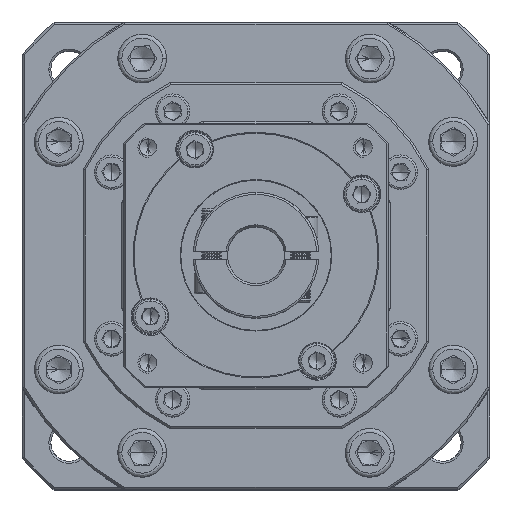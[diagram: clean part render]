
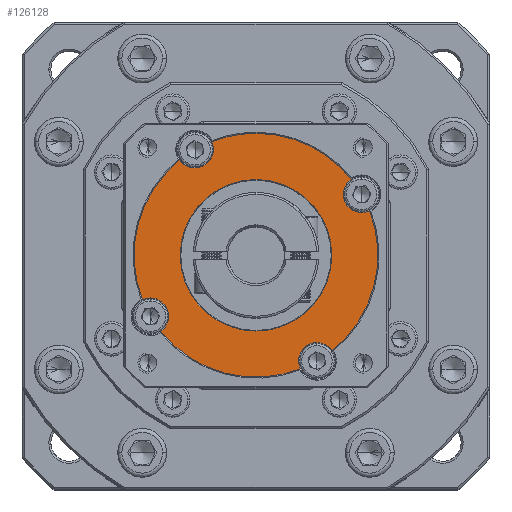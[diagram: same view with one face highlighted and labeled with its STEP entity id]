
A CAD part, top view. The second image highlights one B-rep face of the part: STEP entity #126128.
In plain terms, the highlighted planar face has unit normal (0, 0, 1).
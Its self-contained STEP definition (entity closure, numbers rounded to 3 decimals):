
#581 = ORIENTED_EDGE ( 'NONE', *, *, #77133, .T. ) ;
#601 = ORIENTED_EDGE ( 'NONE', *, *, #132479, .T. ) ;
#1552 = CARTESIAN_POINT ( 'NONE',  ( 82.936, 91.598, -8.557 ) ) ;
#6706 = EDGE_CURVE ( 'NONE', #26056, #55165, #132839, .T. ) ;
#9508 = CARTESIAN_POINT ( 'NONE',  ( 93.917, 128.079, -8.557 ) ) ;
#12837 = EDGE_CURVE ( 'NONE', #55165, #95912, #81189, .T. ) ;
#13440 = DIRECTION ( 'NONE',  ( 0., 1., 0. ) ) ;
#13827 = CARTESIAN_POINT ( 'NONE',  ( 52.936, 139.059, -8.557 ) ) ;
#14485 = CIRCLE ( 'NONE', #132882, 4.5 ) ;
#14868 = CARTESIAN_POINT ( 'NONE',  ( 67.936, 113.079, -8.557 ) ) ;
#14979 = CARTESIAN_POINT ( 'NONE',  ( 67.936, 113.079, -8.557 ) ) ;
#15885 = CARTESIAN_POINT ( 'NONE',  ( 67.936, 113.079, -8.557 ) ) ;
#16029 = ORIENTED_EDGE ( 'NONE', *, *, #88457, .T. ) ;
#16856 = CIRCLE ( 'NONE', #29015, 4.5 ) ;
#18648 = VERTEX_POINT ( 'NONE', #128853 ) ;
#19337 = AXIS2_PLACEMENT_3D ( 'NONE', #9508, #92474, #62154 ) ;
#20737 = ORIENTED_EDGE ( 'NONE', *, *, #69901, .F. ) ;
#21478 = DIRECTION ( 'NONE',  ( 0., 1., 0. ) ) ;
#23734 = DIRECTION ( 'NONE',  ( 0., 1., 0. ) ) ;
#25160 = VERTEX_POINT ( 'NONE', #97864 ) ;
#25674 = DIRECTION ( 'NONE',  ( 0., 1., 0. ) ) ;
#26056 = VERTEX_POINT ( 'NONE', #94303 ) ;
#26915 = DIRECTION ( 'NONE',  ( 0., 0., 1. ) ) ;
#27781 = AXIS2_PLACEMENT_3D ( 'NONE', #13827, #34220, #65999 ) ;
#27928 = CARTESIAN_POINT ( 'NONE',  ( 67.936, 143.079, -8.557 ) ) ;
#29015 = AXIS2_PLACEMENT_3D ( 'NONE', #77013, #45301, #55532 ) ;
#34220 = DIRECTION ( 'NONE',  ( 0., 0., 1. ) ) ;
#35344 = AXIS2_PLACEMENT_3D ( 'NONE', #105772, #40936, #74977 ) ;
#35882 = DIRECTION ( 'NONE',  ( 0., 0., -1. ) ) ;
#35925 = CARTESIAN_POINT ( 'NONE',  ( 67.936, 94.434, -8.557 ) ) ;
#38990 = DIRECTION ( 'NONE',  ( 0., 0., 1. ) ) ;
#40936 = DIRECTION ( 'NONE',  ( 0., 0., 1. ) ) ;
#41575 = EDGE_LOOP ( 'NONE', ( #581, #44824 ) ) ;
#44155 = DIRECTION ( 'NONE',  ( 0., 1., 0. ) ) ;
#44824 = ORIENTED_EDGE ( 'NONE', *, *, #77858, .T. ) ;
#44853 = CIRCLE ( 'NONE', #85575, 4.5 ) ;
#45301 = DIRECTION ( 'NONE',  ( 0., 0., 1. ) ) ;
#46069 = CARTESIAN_POINT ( 'NONE',  ( 52.936, 139.059, -8.557 ) ) ;
#46952 = DIRECTION ( 'NONE',  ( 0., 1., 0. ) ) ;
#47386 = ORIENTED_EDGE ( 'NONE', *, *, #12837, .T. ) ;
#47444 = EDGE_LOOP ( 'NONE', ( #50223, #16029, #96672, #111732, #136703, #47386, #71758, #20737, #601, #71836, #100673, #90334, #94846 ) ) ;
#48088 = AXIS2_PLACEMENT_3D ( 'NONE', #14868, #26915, #46952 ) ;
#48187 = DIRECTION ( 'NONE',  ( 0., 1., 0. ) ) ;
#48710 = DIRECTION ( 'NONE',  ( 0., 1., 0. ) ) ;
#48988 = AXIS2_PLACEMENT_3D ( 'NONE', #101841, #100965, #48187 ) ;
#49303 = EDGE_CURVE ( 'NONE', #67416, #25160, #127907, .T. ) ;
#50223 = ORIENTED_EDGE ( 'NONE', *, *, #52442, .F. ) ;
#50371 = CARTESIAN_POINT ( 'NONE',  ( 41.955, 98.079, -8.557 ) ) ;
#50533 = EDGE_CURVE ( 'NONE', #122990, #91945, #117265, .T. ) ;
#51282 = CARTESIAN_POINT ( 'NONE',  ( 86.653, 89.634, -8.557 ) ) ;
#51819 = VERTEX_POINT ( 'NONE', #35925 ) ;
#52016 = AXIS2_PLACEMENT_3D ( 'NONE', #14979, #35882, #57807 ) ;
#52233 = CIRCLE ( 'NONE', #19337, 4.5 ) ;
#52442 = EDGE_CURVE ( 'NONE', #73156, #101138, #44853, .T. ) ;
#53028 = VERTEX_POINT ( 'NONE', #61238 ) ;
#55165 = VERTEX_POINT ( 'NONE', #27928 ) ;
#55532 = DIRECTION ( 'NONE',  ( 0., 1., 0. ) ) ;
#57173 = FACE_BOUND ( 'NONE', #41575, .T. ) ;
#57807 = DIRECTION ( 'NONE',  ( 0., 1., 0. ) ) ;
#59661 = CIRCLE ( 'NONE', #48088, 30. ) ;
#61125 = DIRECTION ( 'NONE',  ( 0., 1., 0. ) ) ;
#61238 = CARTESIAN_POINT ( 'NONE',  ( 52.936, 134.559, -8.557 ) ) ;
#62154 = DIRECTION ( 'NONE',  ( 0., 1., 0. ) ) ;
#63282 = EDGE_CURVE ( 'NONE', #122990, #18648, #14485, .T. ) ;
#65479 = AXIS2_PLACEMENT_3D ( 'NONE', #15885, #110999, #25674 ) ;
#65999 = DIRECTION ( 'NONE',  ( 0., 1., 0. ) ) ;
#66460 = CARTESIAN_POINT ( 'NONE',  ( 40.004, 102.133, -8.557 ) ) ;
#67416 = VERTEX_POINT ( 'NONE', #72249 ) ;
#69901 = EDGE_CURVE ( 'NONE', #90366, #53028, #96396, .T. ) ;
#71758 = ORIENTED_EDGE ( 'NONE', *, *, #132284, .F. ) ;
#71836 = ORIENTED_EDGE ( 'NONE', *, *, #77574, .F. ) ;
#72204 = VERTEX_POINT ( 'NONE', #94786 ) ;
#72249 = CARTESIAN_POINT ( 'NONE',  ( 93.917, 123.579, -8.557 ) ) ;
#73156 = VERTEX_POINT ( 'NONE', #51282 ) ;
#73668 = CARTESIAN_POINT ( 'NONE',  ( 67.936, 113.079, -8.557 ) ) ;
#74877 = AXIS2_PLACEMENT_3D ( 'NONE', #46069, #120635, #23734 ) ;
#74977 = DIRECTION ( 'NONE',  ( 0., 1., 0. ) ) ;
#75055 = CIRCLE ( 'NONE', #134926, 30. ) ;
#75113 = CARTESIAN_POINT ( 'NONE',  ( 44.491, 94.361, -8.557 ) ) ;
#76323 = DIRECTION ( 'NONE',  ( 0., 0., 1. ) ) ;
#77013 = CARTESIAN_POINT ( 'NONE',  ( 41.955, 98.079, -8.557 ) ) ;
#77133 = EDGE_CURVE ( 'NONE', #72204, #51819, #113788, .T. ) ;
#77259 = CARTESIAN_POINT ( 'NONE',  ( 67.936, 113.079, -8.557 ) ) ;
#77574 = EDGE_CURVE ( 'NONE', #18648, #103701, #16856, .T. ) ;
#77858 = EDGE_CURVE ( 'NONE', #51819, #72204, #81651, .T. ) ;
#78127 = CIRCLE ( 'NONE', #74877, 4.5 ) ;
#79453 = DIRECTION ( 'NONE',  ( 0., 0., 1. ) ) ;
#81189 = CIRCLE ( 'NONE', #65479, 30. ) ;
#81651 = CIRCLE ( 'NONE', #113725, 18.644 ) ;
#83785 = FACE_OUTER_BOUND ( 'NONE', #47444, .T. ) ;
#84370 = DIRECTION ( 'NONE',  ( 0., 0., -1. ) ) ;
#85575 = AXIS2_PLACEMENT_3D ( 'NONE', #102929, #38990, #113632 ) ;
#86613 = DIRECTION ( 'NONE',  ( 0., 0., 1. ) ) ;
#88457 = EDGE_CURVE ( 'NONE', #73156, #25160, #75055, .T. ) ;
#90334 = ORIENTED_EDGE ( 'NONE', *, *, #50533, .T. ) ;
#90366 = VERTEX_POINT ( 'NONE', #118258 ) ;
#91945 = VERTEX_POINT ( 'NONE', #123825 ) ;
#92474 = DIRECTION ( 'NONE',  ( 0., 0., 1. ) ) ;
#92569 = PLANE ( 'NONE',  #112507 ) ;
#93018 = CARTESIAN_POINT ( 'NONE',  ( 67.936, 113.079, -8.557 ) ) ;
#94303 = CARTESIAN_POINT ( 'NONE',  ( 91.381, 131.796, -8.557 ) ) ;
#94786 = CARTESIAN_POINT ( 'NONE',  ( 67.936, 131.723, -8.557 ) ) ;
#94846 = ORIENTED_EDGE ( 'NONE', *, *, #136097, .F. ) ;
#95912 = VERTEX_POINT ( 'NONE', #122508 ) ;
#96396 = CIRCLE ( 'NONE', #27781, 4.5 ) ;
#96672 = ORIENTED_EDGE ( 'NONE', *, *, #49303, .F. ) ;
#97864 = CARTESIAN_POINT ( 'NONE',  ( 95.868, 124.024, -8.557 ) ) ;
#100673 = ORIENTED_EDGE ( 'NONE', *, *, #63282, .F. ) ;
#100965 = DIRECTION ( 'NONE',  ( 0., 0., 1. ) ) ;
#101138 = VERTEX_POINT ( 'NONE', #1552 ) ;
#101841 = CARTESIAN_POINT ( 'NONE',  ( 82.936, 87.098, -8.557 ) ) ;
#102213 = DIRECTION ( 'NONE',  ( 0., 0., 1. ) ) ;
#102929 = CARTESIAN_POINT ( 'NONE',  ( 82.936, 87.098, -8.557 ) ) ;
#103701 = VERTEX_POINT ( 'NONE', #66460 ) ;
#105772 = CARTESIAN_POINT ( 'NONE',  ( 67.936, 113.079, -8.557 ) ) ;
#108553 = EDGE_CURVE ( 'NONE', #26056, #67416, #52233, .T. ) ;
#110259 = AXIS2_PLACEMENT_3D ( 'NONE', #77259, #86613, #13440 ) ;
#110999 = DIRECTION ( 'NONE',  ( 0., 0., 1. ) ) ;
#111732 = ORIENTED_EDGE ( 'NONE', *, *, #108553, .F. ) ;
#112507 = AXIS2_PLACEMENT_3D ( 'NONE', #93018, #113531, #48710 ) ;
#113531 = DIRECTION ( 'NONE',  ( 0., 0., 1. ) ) ;
#113632 = DIRECTION ( 'NONE',  ( 0., 1., 0. ) ) ;
#113725 = AXIS2_PLACEMENT_3D ( 'NONE', #73668, #84370, #21478 ) ;
#113788 = CIRCLE ( 'NONE', #52016, 18.644 ) ;
#117265 = CIRCLE ( 'NONE', #35344, 30. ) ;
#118258 = CARTESIAN_POINT ( 'NONE',  ( 49.218, 136.523, -8.557 ) ) ;
#120635 = DIRECTION ( 'NONE',  ( 0., 0., 1. ) ) ;
#121875 = CIRCLE ( 'NONE', #48988, 4.5 ) ;
#122286 = CARTESIAN_POINT ( 'NONE',  ( 67.936, 113.079, -8.557 ) ) ;
#122508 = CARTESIAN_POINT ( 'NONE',  ( 56.991, 141.011, -8.557 ) ) ;
#122990 = VERTEX_POINT ( 'NONE', #75113 ) ;
#123825 = CARTESIAN_POINT ( 'NONE',  ( 78.881, 85.146, -8.557 ) ) ;
#124333 = AXIS2_PLACEMENT_3D ( 'NONE', #130790, #76323, #44155 ) ;
#126128 = ADVANCED_FACE ( 'NONE', ( #57173, #83785 ), #92569, .T. ) ;
#127907 = CIRCLE ( 'NONE', #124333, 4.5 ) ;
#128853 = CARTESIAN_POINT ( 'NONE',  ( 41.955, 102.579, -8.557 ) ) ;
#130790 = CARTESIAN_POINT ( 'NONE',  ( 93.917, 128.079, -8.557 ) ) ;
#132284 = EDGE_CURVE ( 'NONE', #53028, #95912, #78127, .T. ) ;
#132479 = EDGE_CURVE ( 'NONE', #90366, #103701, #59661, .T. ) ;
#132523 = DIRECTION ( 'NONE',  ( 0., 1., 0. ) ) ;
#132839 = CIRCLE ( 'NONE', #110259, 30. ) ;
#132882 = AXIS2_PLACEMENT_3D ( 'NONE', #50371, #102213, #61125 ) ;
#134926 = AXIS2_PLACEMENT_3D ( 'NONE', #122286, #79453, #132523 ) ;
#136097 = EDGE_CURVE ( 'NONE', #101138, #91945, #121875, .T. ) ;
#136703 = ORIENTED_EDGE ( 'NONE', *, *, #6706, .T. ) ;
